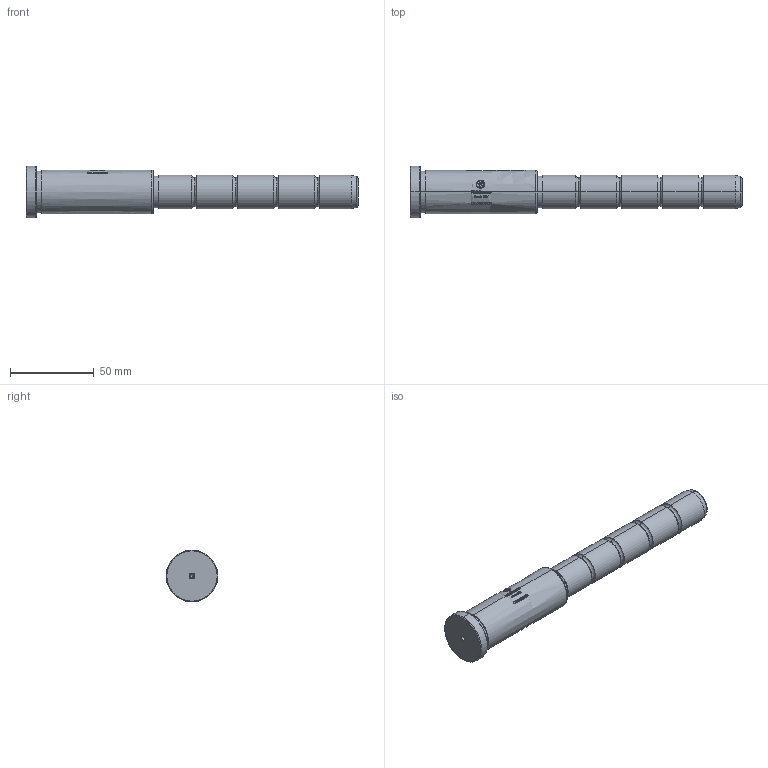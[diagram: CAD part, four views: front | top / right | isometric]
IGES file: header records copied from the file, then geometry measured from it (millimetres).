
Start section: SolidWorks IGES file using analytic representation for surfaces
Global section: file name: C:\Users\User\Downloads\CFM - 08-09\CFM  - Nova\20\CFM20076122.IGS; native system: SolidWorks 2024; preprocessor: SolidWorks 2024; author: User; date: 260909.105810; units: millimetre
Bounding box: 198 x 31 x 31 mm (x, y, z)
Surface area: 15864.7 mm2 (no closed solid volume)
Topology: 0 solids, 0 shells, 498 faces, 4632 edges, 4628 vertices
Faces by surface type: bspline 399, revolution 99
